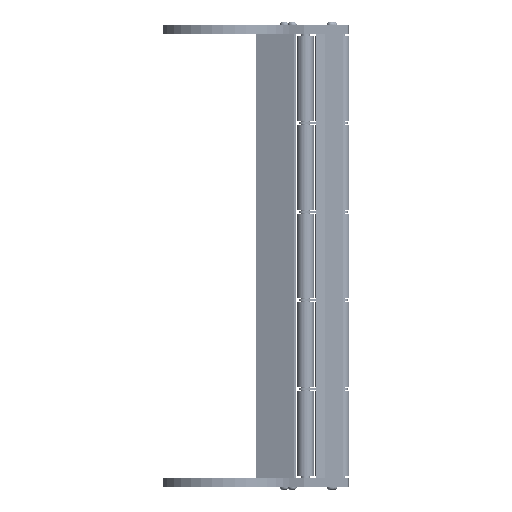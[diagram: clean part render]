
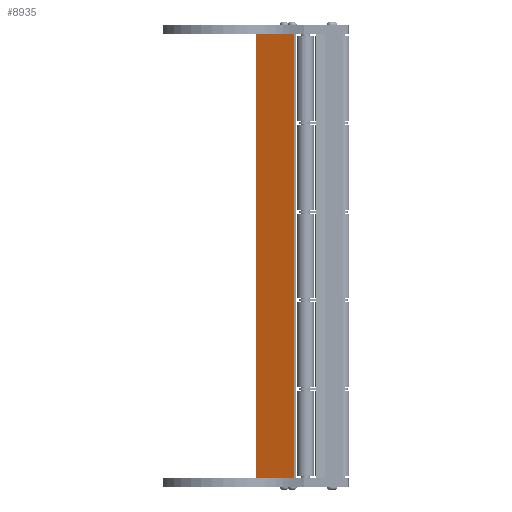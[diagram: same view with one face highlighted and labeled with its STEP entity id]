
A CAD part, front view. The second image highlights one B-rep face of the part: STEP entity #8935.
In plain terms, the highlighted planar face has unit normal (-0.342, -0.94, 0) as drawn and (0.342, -0.94, 0) by its records, which use the part's own axes.
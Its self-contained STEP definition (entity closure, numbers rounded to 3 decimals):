
#686 = EDGE_LOOP ( 'NONE', ( #14430, #17102, #15311, #4769 ) ) ;
#1393 = DIRECTION ( 'NONE',  ( 0.94, 0.342, 0. ) ) ;
#2016 = VERTEX_POINT ( 'NONE', #6723 ) ;
#2770 = VECTOR ( 'NONE', #8819, 1000. ) ;
#2835 = CARTESIAN_POINT ( 'NONE',  ( 35., 12.137, 392. ) ) ;
#3194 = CARTESIAN_POINT ( 'NONE',  ( 35., 12.137, 392. ) ) ;
#4044 = VECTOR ( 'NONE', #1393, 1000. ) ;
#4626 = DIRECTION ( 'NONE',  ( 0.94, 0.342, 0. ) ) ;
#4769 = ORIENTED_EDGE ( 'NONE', *, *, #7356, .T. ) ;
#5297 = EDGE_CURVE ( 'NONE', #2016, #8735, #14438, .T. ) ;
#5372 = AXIS2_PLACEMENT_3D ( 'NONE', #17692, #8175, #16729 ) ;
#5676 = CARTESIAN_POINT ( 'NONE',  ( 1.655, 0., 392. ) ) ;
#6066 = DIRECTION ( 'NONE',  ( 0., 0., -1. ) ) ;
#6438 = PLANE ( 'NONE',  #5372 ) ;
#6723 = CARTESIAN_POINT ( 'NONE',  ( 1.655, 0., 392. ) ) ;
#7323 = VECTOR ( 'NONE', #6066, 1000. ) ;
#7356 = EDGE_CURVE ( 'NONE', #2016, #17787, #10421, .T. ) ;
#7924 = CARTESIAN_POINT ( 'NONE',  ( 35., 12.137, 0. ) ) ;
#8175 = DIRECTION ( 'NONE',  ( -0.342, 0.94, 0. ) ) ;
#8367 = EDGE_CURVE ( 'NONE', #17787, #9292, #13485, .T. ) ;
#8735 = VERTEX_POINT ( 'NONE', #2835 ) ;
#8819 = DIRECTION ( 'NONE',  ( 0., 0., -1. ) ) ;
#8935 = ADVANCED_FACE ( 'NONE', ( #15196 ), #6438, .F. ) ;
#9292 = VERTEX_POINT ( 'NONE', #17672 ) ;
#10421 = LINE ( 'NONE', #5676, #7323 ) ;
#13485 = LINE ( 'NONE', #7924, #18895 ) ;
#14430 = ORIENTED_EDGE ( 'NONE', *, *, #8367, .T. ) ;
#14438 = LINE ( 'NONE', #17508, #4044 ) ;
#15196 = FACE_OUTER_BOUND ( 'NONE', #686, .T. ) ;
#15311 = ORIENTED_EDGE ( 'NONE', *, *, #5297, .F. ) ;
#16109 = LINE ( 'NONE', #3194, #2770 ) ;
#16541 = EDGE_CURVE ( 'NONE', #8735, #9292, #16109, .T. ) ;
#16729 = DIRECTION ( 'NONE',  ( -0.94, -0.342, 0. ) ) ;
#17102 = ORIENTED_EDGE ( 'NONE', *, *, #16541, .F. ) ;
#17508 = CARTESIAN_POINT ( 'NONE',  ( 1.655, 0., 392. ) ) ;
#17672 = CARTESIAN_POINT ( 'NONE',  ( 35., 12.137, 0. ) ) ;
#17692 = CARTESIAN_POINT ( 'NONE',  ( 35., 12.137, 392. ) ) ;
#17787 = VERTEX_POINT ( 'NONE', #18961 ) ;
#18895 = VECTOR ( 'NONE', #4626, 1000. ) ;
#18961 = CARTESIAN_POINT ( 'NONE',  ( 1.655, 0., 0. ) ) ;
